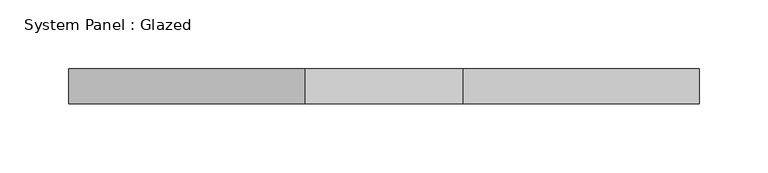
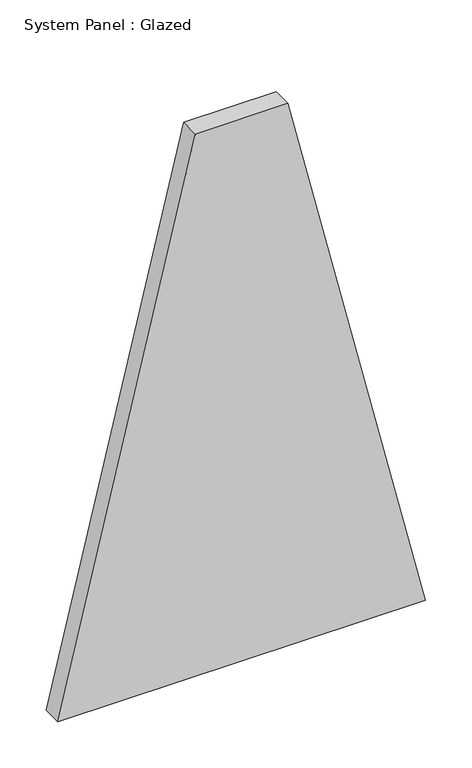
"""IFC4 building model written with IfcOpenShell, lengths in millimetres: plate geometry, System Panel : Glazed."""

from ifc_helpers import new_model, si_unit, frame, origin, place, context, project, spatial, polyline, outline, extrude, source, transform, mapped, element, save


def system_panel_glazed_a1227523(model_context):
    return source(origin(), model_context, "Body", "SweptSolid", [
        extrude(outline(polyline([(0.0, -229.2461229), (0.0, 229.2461229), (715.6332353, 57.8098099), (715.6332353, -57.8098099), (0.0, -229.2461229)])), frame((0.0, -44.45, 0.0), z_axis=(0.0, 1.0, 0.0), x_axis=(0.0, 0.0, 1.0)), (0.0, 0.0, 1.0), 25.4),
    ])


if __name__ == "__main__":
    model = new_model("IFC4")
    model_context = context("Model", 3, world=origin())
    ifc_project = project(units=[si_unit("LENGTHUNIT", "METRE", prefix="MILLI")], contexts=[model_context])
    site = spatial("IfcSite", under=ifc_project)
    building = spatial("IfcBuilding", under=site)
    placement = place(None, origin())
    system_panel_glazed_shape = system_panel_glazed_a1227523(model_context)
    element("IfcPlate", 1, ObjectType="System Panel : Glazed", at=placement, inside=building, context=model_context, shape_type="MappedRepresentation", body=[
        mapped(system_panel_glazed_shape, transform((0.0, 0.0, 0.0), x_axis=(1.0, 0.0, 0.0), y_axis=(0.0, 1.0, 0.0), z_axis=(0.0, 0.0, 1.0))),
    ])
    save(model, "model.ifc")
